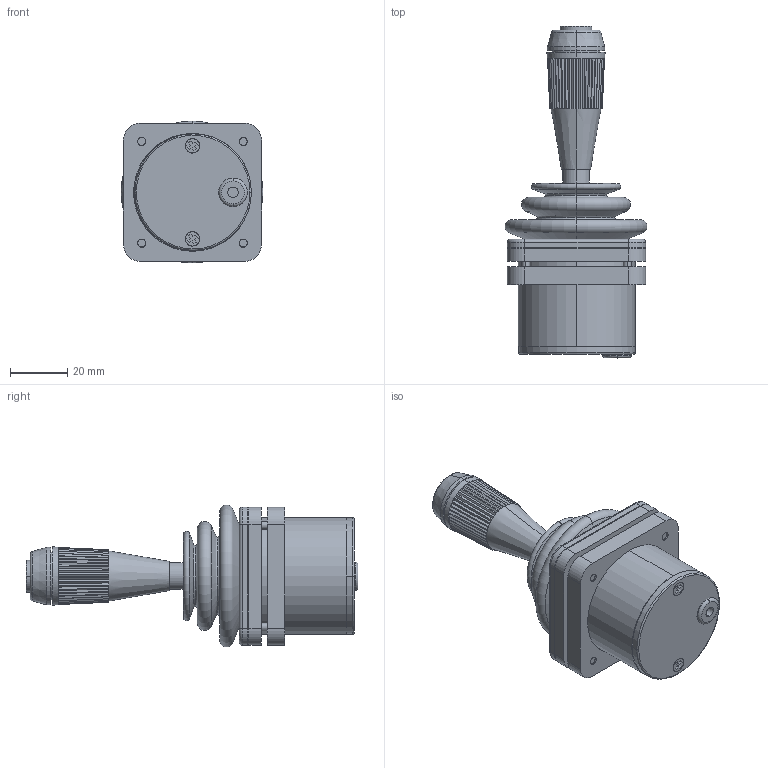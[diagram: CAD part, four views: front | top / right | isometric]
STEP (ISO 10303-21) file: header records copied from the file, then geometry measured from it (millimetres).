
FILE_DESCRIPTION (( 'STEP AP214' ), '1' );
FILE_NAME ('TRY10_3514xx1.STEP', '2009-06-19T05:56:56', ( 'admin' ), ( '' ), 'SwSTEP 2.0', 'SolidWorks 2007', '' );
FILE_SCHEMA (( 'AUTOMOTIVE_DESIGN' ));
Length unit declared in the file: millimetre
Products named in the file (12): Schraube Boden; Schraube Balg; TRY10_3514xx1; Durchf黨rungst黮le_Standard; Balg; Montageplatte; Gehäuse; Gehäuse-Boden; Knauf-Typ4-Oberteil; Knauf-Typ4-Unterteil; Abdeckrahmen; Tasterkappe_Knüppel_Typ_4_Stand
Assembly tree (15 placements, depth 2):
  TRY10_3514xx1
    Schraube Balg  x4
    Abdeckrahmen
    Knauf-Typ4-Unterteil
    Montageplatte
    Gehäuse
    Durchf黨rungst黮le_Standard
    Schraube Boden  x2
    Tasterkappe_Knüppel_Typ_4_Stand
    Knauf-Typ4-Oberteil
    Gehäuse-Boden
    Balg
Bounding box: 49.72 x 116.29 x 49.72 mm (x, y, z)
Volume: 70222.5 mm3; surface area: 42099.7 mm2
Topology: 15 solids, 15 shells, 546 faces, 1290 edges, 803 vertices
Faces by surface type: plane 324, cylinder 134, torus 44, cone 32, sphere 10, bspline 2
Entity records: 13945 total; most frequent: CARTESIAN_POINT 2557, DIRECTION 2494, ORIENTED_EDGE 2152, EDGE_CURVE 1076, AXIS2_PLACEMENT_3D 945, VERTEX_POINT 664, LINE 604, VECTOR 604
